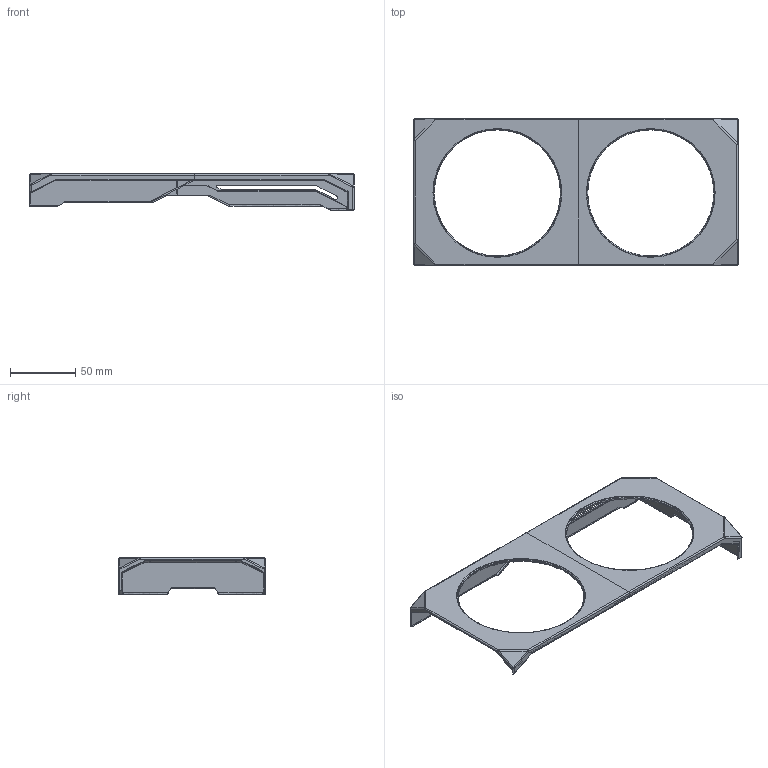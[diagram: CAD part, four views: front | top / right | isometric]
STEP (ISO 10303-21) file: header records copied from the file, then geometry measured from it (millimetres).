
FILE_DESCRIPTION((''),'2;1');
FILE_NAME('F306_MAKER_COVER','2023-11-07T11:02:27',('Kate'),(''),'CREO PARAMETRIC BY PTC INC, 2020281','CREO PARAMETRIC BY PTC INC, 2020281','');
FILE_SCHEMA(('CONFIG_CONTROL_DESIGN'));
Length unit declared in the file: millimetre
Products named in the file (1): F306_MAKER_COVER
Bounding box: 249.42 x 112.9 x 28 mm (x, y, z)
Volume: 56614.3 mm3; surface area: 49533.6 mm2
Topology: 2 solids, 2 shells, 507 faces, 1361 edges, 860 vertices
Faces by surface type: plane 327, cylinder 107, cone 20, bspline 18, sphere 14, torus 12, extrusion 9
Entity records: 16803 total; most frequent: CARTESIAN_POINT 4463, ORIENTED_EDGE 2722, DIRECTION 2386, EDGE_CURVE 1361, VERTEX_POINT 860, AXIS2_PLACEMENT_3D 819, VECTOR 748, LINE 739
